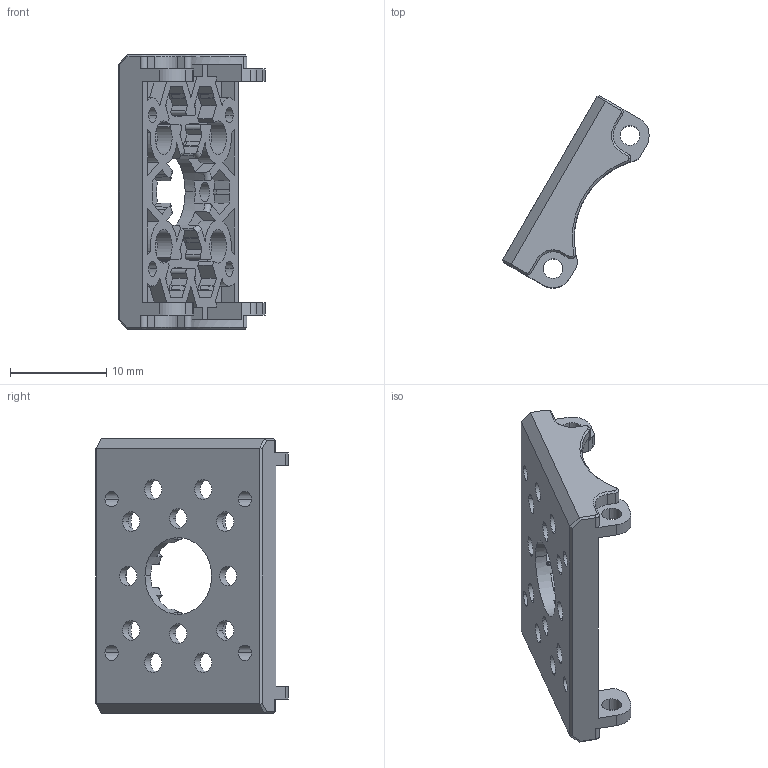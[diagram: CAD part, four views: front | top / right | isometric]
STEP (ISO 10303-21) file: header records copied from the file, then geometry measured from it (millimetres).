
FILE_DESCRIPTION (( 'STEP AP214' ), '1' );
FILE_NAME ('middle_4.STEP', '2026-09-17T13:02:51', ( '' ), ( '' ), 'SwSTEP 2.0', 'SolidWorks 2024', '' );
FILE_SCHEMA (( 'AUTOMOTIVE_DESIGN' ));
Length unit declared in the file: millimetre
Products named in the file (2): fpx330-s101_默认; middle_4
Assembly tree (1 placements, depth 2):
  middle_4
    fpx330-s101_默认
Bounding box: 15.23 x 19.99 x 28.6 mm (x, y, z)
Volume: 1208.5 mm3; surface area: 2187.5 mm2
Topology: 1 solids, 1 shells, 426 faces, 1180 edges, 760 vertices
Faces by surface type: plane 298, cylinder 102, cone 18, torus 8
Entity records: 13681 total; most frequent: CARTESIAN_POINT 2474, ORIENTED_EDGE 2360, DIRECTION 2290, EDGE_CURVE 1180, VECTOR 898, LINE 898, VERTEX_POINT 760, AXIS2_PLACEMENT_3D 696
